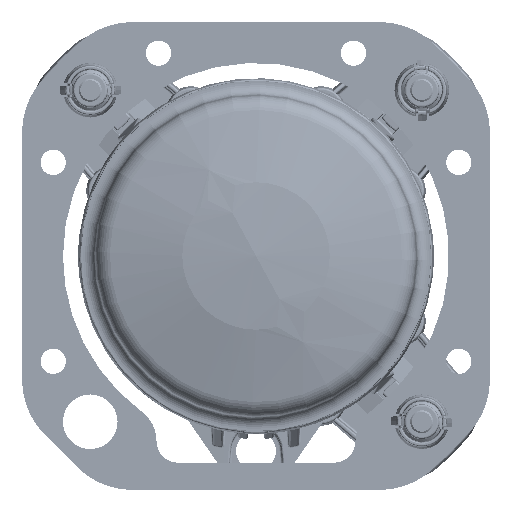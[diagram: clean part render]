
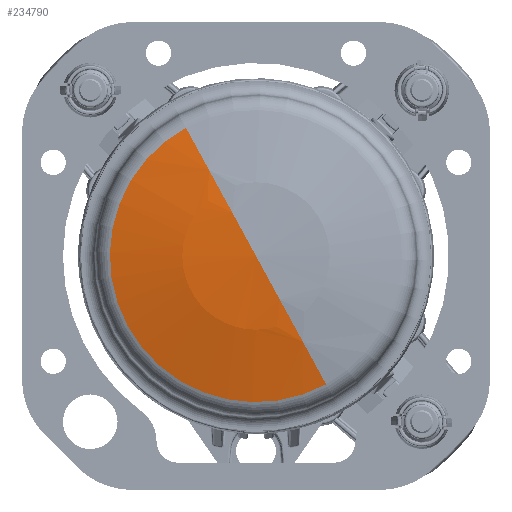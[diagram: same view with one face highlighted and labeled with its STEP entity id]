
A CAD part, left-side view. The second image highlights one B-rep face of the part: STEP entity #234790.
In plain terms, the highlighted spherical face has radius 142 mm.
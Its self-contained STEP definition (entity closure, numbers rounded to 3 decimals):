
#234739=AXIS2_PLACEMENT_3D('Circle Axis2P3D',#234737,#234738,$) ;
#234771=AXIS2_PLACEMENT_3D('Sphere Axis2P3D',#234768,#234769,#234770) ;
#234775=AXIS2_PLACEMENT_3D('Circle Axis2P3D',#234773,#234774,$) ;
#234782=AXIS2_PLACEMENT_3D('Circle Axis2P3D',#234780,#234781,$) ;
#234734=CARTESIAN_POINT('Vertex',(-46.896,-17.965,-32.885)) ;
#234737=CARTESIAN_POINT('Axis2P3D Location',(-46.896,0.,0.)) ;
#234741=CARTESIAN_POINT('Vertex',(-46.896,17.965,32.885)) ;
#234768=CARTESIAN_POINT('Axis2P3D Location',(90.07,0.,0.)) ;
#234773=CARTESIAN_POINT('Axis2P3D Location',(90.07,0.,0.)) ;
#234777=CARTESIAN_POINT('Vertex',(-51.93,0.,0.)) ;
#234780=CARTESIAN_POINT('Axis2P3D Location',(90.07,0.,0.)) ;
#234738=DIRECTION('Axis2P3D Direction',(-1.,0.,0.)) ;
#234769=DIRECTION('Axis2P3D Direction',(-1.,0.,0.)) ;
#234770=DIRECTION('Axis2P3D XDirection',(0.,0.479,0.878)) ;
#234774=DIRECTION('Axis2P3D Direction',(0.,0.878,-0.479)) ;
#234781=DIRECTION('Axis2P3D Direction',(0.,-0.878,0.479)) ;
#234786=ORIENTED_EDGE('',*,*,#234779,.T.) ;
#234787=ORIENTED_EDGE('',*,*,#234784,.F.) ;
#234788=ORIENTED_EDGE('',*,*,#234743,.T.) ;
#234790=ADVANCED_FACE('90mm-LED_Lichtscheibe_ohne_Optik.1\\PartBody',(#234789),#234772,.T.) ;
#234740=CIRCLE('generated circle',#234739,37.473) ;
#234776=CIRCLE('generated circle',#234775,142.) ;
#234783=CIRCLE('generated circle',#234782,142.) ;
#234743=EDGE_CURVE('',#234742,#234735,#234740,.T.) ;
#234779=EDGE_CURVE('',#234735,#234778,#234776,.T.) ;
#234784=EDGE_CURVE('',#234742,#234778,#234783,.T.) ;
#234785=EDGE_LOOP('',(#234786,#234787,#234788)) ;
#234789=FACE_OUTER_BOUND('',#234785,.T.) ;
#234772=SPHERICAL_SURFACE('',#234771,142.) ;
#234735=VERTEX_POINT('',#234734) ;
#234742=VERTEX_POINT('',#234741) ;
#234778=VERTEX_POINT('',#234777) ;
